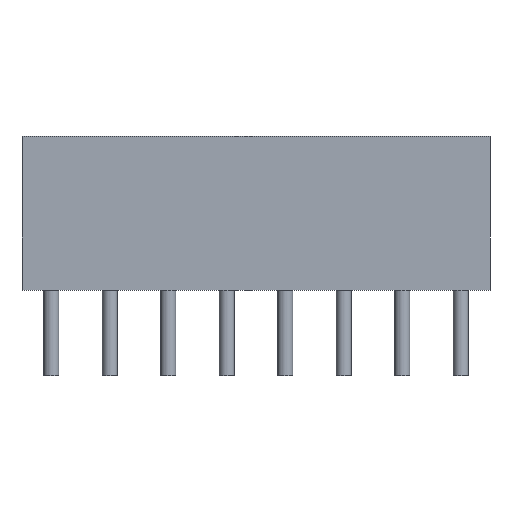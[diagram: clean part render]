
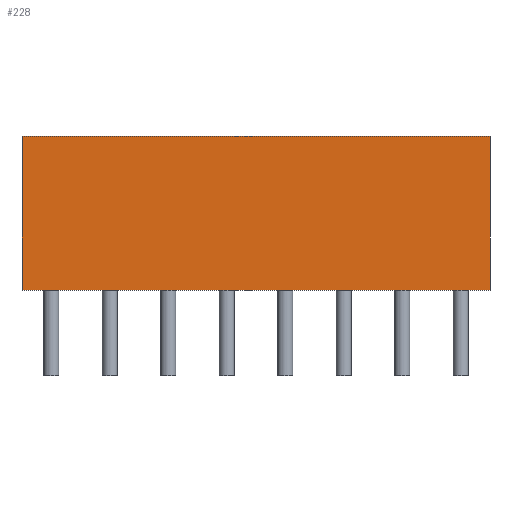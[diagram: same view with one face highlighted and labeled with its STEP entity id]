
A CAD part, front view. The second image highlights one B-rep face of the part: STEP entity #228.
In plain terms, the highlighted planar face has unit normal (0, -1, 0).
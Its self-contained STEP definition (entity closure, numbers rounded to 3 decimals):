
#59 = PLANE('',#60);
#60 = AXIS2_PLACEMENT_3D('',#61,#62,#63);
#61 = CARTESIAN_POINT('',(-26.25,-3.5,0.));
#62 = DIRECTION('',(-1.,0.,0.));
#63 = DIRECTION('',(0.,1.,0.));
#87 = PLANE('',#88);
#88 = AXIS2_PLACEMENT_3D('',#89,#90,#91);
#89 = CARTESIAN_POINT('',(-12.25,0.15,9.2));
#90 = DIRECTION('',(-0.,-0.,-1.));
#91 = DIRECTION('',(-1.,0.,0.));
#115 = PLANE('',#116);
#116 = AXIS2_PLACEMENT_3D('',#117,#118,#119);
#117 = CARTESIAN_POINT('',(1.75,3.8,0.));
#118 = DIRECTION('',(1.,0.,-0.));
#119 = DIRECTION('',(0.,-1.,0.));
#141 = PLANE('',#142);
#142 = AXIS2_PLACEMENT_3D('',#143,#144,#145);
#143 = CARTESIAN_POINT('',(-12.25,0.15,0.));
#144 = DIRECTION('',(-0.,-0.,-1.));
#145 = DIRECTION('',(-1.,0.,0.));
#158 = VERTEX_POINT('',#159);
#159 = CARTESIAN_POINT('',(1.75,-3.5,9.2));
#180 = EDGE_CURVE('',#181,#158,#183,.T.);
#181 = VERTEX_POINT('',#182);
#182 = CARTESIAN_POINT('',(1.75,-3.5,0.));
#183 = SURFACE_CURVE('',#184,(#188,#195),.PCURVE_S1.);
#184 = LINE('',#185,#186);
#185 = CARTESIAN_POINT('',(1.75,-3.5,0.));
#186 = VECTOR('',#187,1.);
#187 = DIRECTION('',(0.,0.,1.));
#188 = PCURVE('',#115,#189);
#189 = DEFINITIONAL_REPRESENTATION('',(#190),#194);
#190 = LINE('',#191,#192);
#191 = CARTESIAN_POINT('',(7.3,0.));
#192 = VECTOR('',#193,1.);
#193 = DIRECTION('',(0.,-1.));
#194 = ( GEOMETRIC_REPRESENTATION_CONTEXT(2) 
PARAMETRIC_REPRESENTATION_CONTEXT() REPRESENTATION_CONTEXT('2D SPACE',''
  ) );
#195 = PCURVE('',#196,#201);
#196 = PLANE('',#197);
#197 = AXIS2_PLACEMENT_3D('',#198,#199,#200);
#198 = CARTESIAN_POINT('',(1.75,-3.5,0.));
#199 = DIRECTION('',(0.,-1.,0.));
#200 = DIRECTION('',(-1.,0.,0.));
#201 = DEFINITIONAL_REPRESENTATION('',(#202),#206);
#202 = LINE('',#203,#204);
#203 = CARTESIAN_POINT('',(0.,-0.));
#204 = VECTOR('',#205,1.);
#205 = DIRECTION('',(0.,-1.));
#206 = ( GEOMETRIC_REPRESENTATION_CONTEXT(2) 
PARAMETRIC_REPRESENTATION_CONTEXT() REPRESENTATION_CONTEXT('2D SPACE',''
  ) );
#228 = ADVANCED_FACE('',(#229),#196,.T.);
#229 = FACE_BOUND('',#230,.T.);
#230 = EDGE_LOOP('',(#231,#232,#255,#278));
#231 = ORIENTED_EDGE('',*,*,#180,.T.);
#232 = ORIENTED_EDGE('',*,*,#233,.T.);
#233 = EDGE_CURVE('',#158,#234,#236,.T.);
#234 = VERTEX_POINT('',#235);
#235 = CARTESIAN_POINT('',(-26.25,-3.5,9.2));
#236 = SURFACE_CURVE('',#237,(#241,#248),.PCURVE_S1.);
#237 = LINE('',#238,#239);
#238 = CARTESIAN_POINT('',(1.75,-3.5,9.2));
#239 = VECTOR('',#240,1.);
#240 = DIRECTION('',(-1.,0.,0.));
#241 = PCURVE('',#196,#242);
#242 = DEFINITIONAL_REPRESENTATION('',(#243),#247);
#243 = LINE('',#244,#245);
#244 = CARTESIAN_POINT('',(0.,-9.2));
#245 = VECTOR('',#246,1.);
#246 = DIRECTION('',(1.,0.));
#247 = ( GEOMETRIC_REPRESENTATION_CONTEXT(2) 
PARAMETRIC_REPRESENTATION_CONTEXT() REPRESENTATION_CONTEXT('2D SPACE',''
  ) );
#248 = PCURVE('',#87,#249);
#249 = DEFINITIONAL_REPRESENTATION('',(#250),#254);
#250 = LINE('',#251,#252);
#251 = CARTESIAN_POINT('',(-14.,-3.65));
#252 = VECTOR('',#253,1.);
#253 = DIRECTION('',(1.,0.));
#254 = ( GEOMETRIC_REPRESENTATION_CONTEXT(2) 
PARAMETRIC_REPRESENTATION_CONTEXT() REPRESENTATION_CONTEXT('2D SPACE',''
  ) );
#255 = ORIENTED_EDGE('',*,*,#256,.F.);
#256 = EDGE_CURVE('',#257,#234,#259,.T.);
#257 = VERTEX_POINT('',#258);
#258 = CARTESIAN_POINT('',(-26.25,-3.5,0.));
#259 = SURFACE_CURVE('',#260,(#264,#271),.PCURVE_S1.);
#260 = LINE('',#261,#262);
#261 = CARTESIAN_POINT('',(-26.25,-3.5,0.));
#262 = VECTOR('',#263,1.);
#263 = DIRECTION('',(0.,0.,1.));
#264 = PCURVE('',#196,#265);
#265 = DEFINITIONAL_REPRESENTATION('',(#266),#270);
#266 = LINE('',#267,#268);
#267 = CARTESIAN_POINT('',(28.,0.));
#268 = VECTOR('',#269,1.);
#269 = DIRECTION('',(0.,-1.));
#270 = ( GEOMETRIC_REPRESENTATION_CONTEXT(2) 
PARAMETRIC_REPRESENTATION_CONTEXT() REPRESENTATION_CONTEXT('2D SPACE',''
  ) );
#271 = PCURVE('',#59,#272);
#272 = DEFINITIONAL_REPRESENTATION('',(#273),#277);
#273 = LINE('',#274,#275);
#274 = CARTESIAN_POINT('',(0.,0.));
#275 = VECTOR('',#276,1.);
#276 = DIRECTION('',(0.,-1.));
#277 = ( GEOMETRIC_REPRESENTATION_CONTEXT(2) 
PARAMETRIC_REPRESENTATION_CONTEXT() REPRESENTATION_CONTEXT('2D SPACE',''
  ) );
#278 = ORIENTED_EDGE('',*,*,#279,.F.);
#279 = EDGE_CURVE('',#181,#257,#280,.T.);
#280 = SURFACE_CURVE('',#281,(#285,#292),.PCURVE_S1.);
#281 = LINE('',#282,#283);
#282 = CARTESIAN_POINT('',(1.75,-3.5,0.));
#283 = VECTOR('',#284,1.);
#284 = DIRECTION('',(-1.,0.,0.));
#285 = PCURVE('',#196,#286);
#286 = DEFINITIONAL_REPRESENTATION('',(#287),#291);
#287 = LINE('',#288,#289);
#288 = CARTESIAN_POINT('',(0.,-0.));
#289 = VECTOR('',#290,1.);
#290 = DIRECTION('',(1.,0.));
#291 = ( GEOMETRIC_REPRESENTATION_CONTEXT(2) 
PARAMETRIC_REPRESENTATION_CONTEXT() REPRESENTATION_CONTEXT('2D SPACE',''
  ) );
#292 = PCURVE('',#141,#293);
#293 = DEFINITIONAL_REPRESENTATION('',(#294),#298);
#294 = LINE('',#295,#296);
#295 = CARTESIAN_POINT('',(-14.,-3.65));
#296 = VECTOR('',#297,1.);
#297 = DIRECTION('',(1.,0.));
#298 = ( GEOMETRIC_REPRESENTATION_CONTEXT(2) 
PARAMETRIC_REPRESENTATION_CONTEXT() REPRESENTATION_CONTEXT('2D SPACE',''
  ) );
